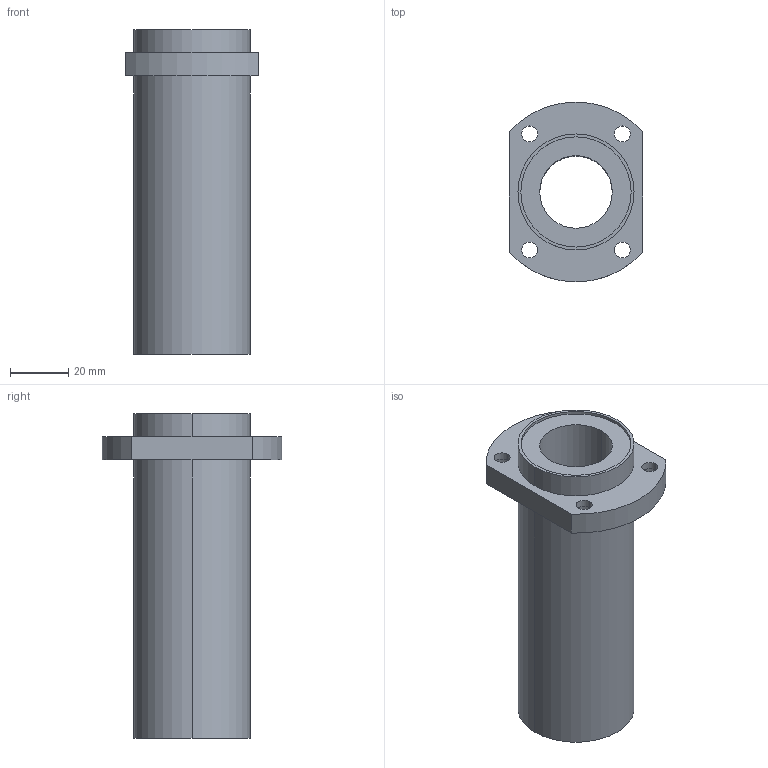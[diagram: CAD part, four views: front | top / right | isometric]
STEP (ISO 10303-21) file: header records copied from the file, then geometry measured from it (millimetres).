
FILE_DESCRIPTION((''),'2;1');
FILE_NAME('C:\Documents and Settings\ｿﾀﾀ蠑ｷ1\ｹﾙﾅﾁ ﾈｭｸ饅\ｺﾎﾇｰﾆﾄﾀﾏ\ﾁｦﾇｰ\LMHP__LUU\LMHP25LUU.stp','2005-06-15T12:05:24',('ｿﾀﾀ蠑ｷ1'),(''),'Autodesk Inventor 9','Autodesk Inventor 9','');
FILE_SCHEMA(('AUTOMOTIVE_DESIGN { 1 0 10303 214 1 1 1 1 }'));
Length unit declared in the file: millimetre
Products named in the file (1): LMHP__
Bounding box: 46 x 62 x 112 mm (x, y, z)
Volume: 93150.1 mm3; surface area: 28219.7 mm2
Topology: 1 solids, 1 shells, 40 faces, 90 edges, 60 vertices
Faces by surface type: cylinder 28, plane 12
Entity records: 1193 total; most frequent: DIRECTION 228, CARTESIAN_POINT 191, ORIENTED_EDGE 180, AXIS2_PLACEMENT_3D 97, EDGE_CURVE 90, VERTEX_POINT 60, EDGE_LOOP 58, CIRCLE 56
